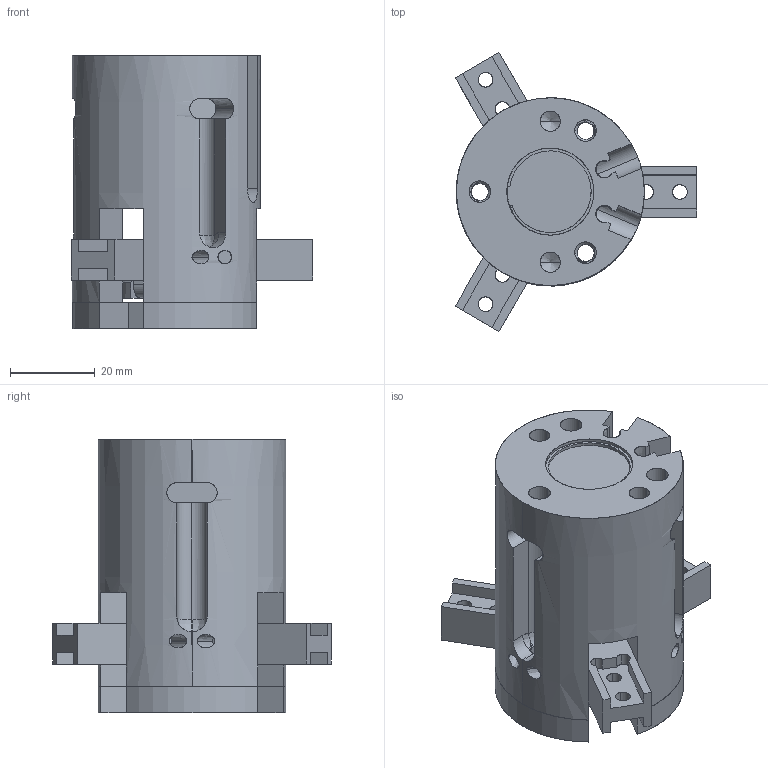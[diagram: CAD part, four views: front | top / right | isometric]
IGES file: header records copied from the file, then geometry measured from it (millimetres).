
Start section: SolidWorks IGES file using analytic representation for surfaces
Global section: file name: C:\Users\jmkuhnes\Pictures\AGA-23\AGA-23 OPEN in MM.IGS; native system: SolidWorks 2013; preprocessor: SolidWorks 2013; author: jmkuhnes; date: 141104.161458; units: millimetre
Bounding box: 57.1 x 65.93 x 64.77 mm (x, y, z)
Surface area: 36399 mm2 (no closed solid volume)
Topology: 0 solids, 0 shells, 464 faces, 8877 edges, 8863 vertices
Faces by surface type: revolution 267, bspline 197
